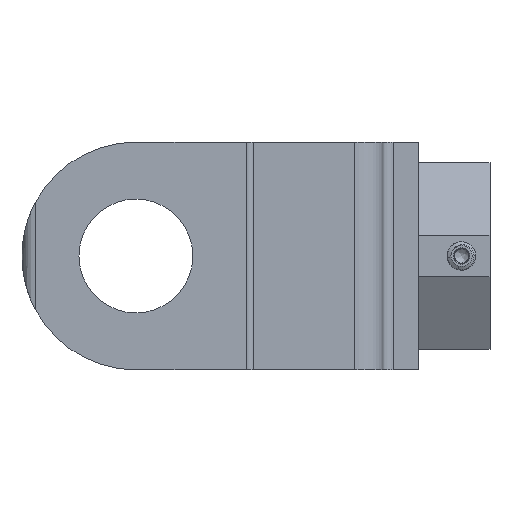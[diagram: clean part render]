
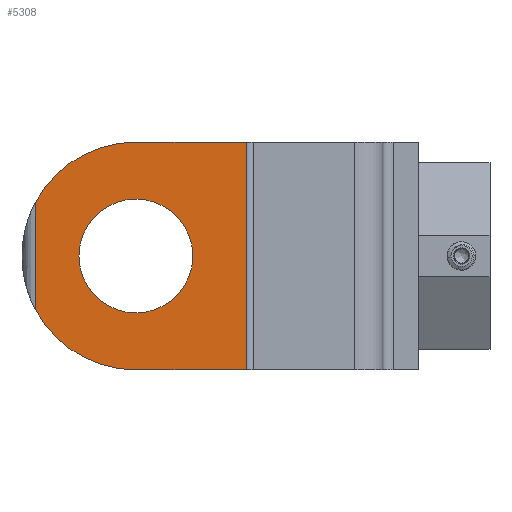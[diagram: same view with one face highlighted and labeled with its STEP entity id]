
A CAD part, left-side view. The second image highlights one B-rep face of the part: STEP entity #5308.
In plain terms, the highlighted planar face has unit normal (-1, 0, 0).
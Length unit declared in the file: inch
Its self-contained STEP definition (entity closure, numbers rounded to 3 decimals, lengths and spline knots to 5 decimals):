
#692 = CARTESIAN_POINT ( 'NONE',  ( 18.54413, 8.24726, 1. ) ) ;
#702 = DIRECTION ( 'NONE',  ( -1., 0., 0. ) ) ;
#703 = DIRECTION ( 'NONE',  ( 0., 0., 1. ) ) ;
#1264 = EDGE_LOOP ( 'NONE', ( #2578, #2579 ) ) ;
#1306 = EDGE_LOOP ( 'NONE', ( #2580, #2581, #2582, #2583, #2584, #2585 ) ) ;
#1454 = CARTESIAN_POINT ( 'NONE',  ( 18.54413, 7.27851, 2. ) ) ;
#1455 = DIRECTION ( 'NONE',  ( 0., 0., -1. ) ) ;
#1456 = CARTESIAN_POINT ( 'NONE',  ( 18.54413, 7.27851, 2. ) ) ;
#1460 = CARTESIAN_POINT ( 'NONE',  ( 18.54413, 7.27851, 0. ) ) ;
#1461 = DIRECTION ( 'NONE',  ( 0., -1., 0. ) ) ;
#1462 = CARTESIAN_POINT ( 'NONE',  ( 18.54413, 8.24726, 1. ) ) ;
#1463 = DIRECTION ( 'NONE',  ( 0., -1., 0. ) ) ;
#1464 = DIRECTION ( 'NONE',  ( -1., 0., 0. ) ) ;
#1465 = DIRECTION ( 'NONE',  ( 0., 0., 1. ) ) ;
#1466 = CARTESIAN_POINT ( 'NONE',  ( 18.54413, 8.24726, 1. ) ) ;
#1467 = DIRECTION ( 'NONE',  ( 1., 0., 0. ) ) ;
#1468 = DIRECTION ( 'NONE',  ( 0., 0., 1. ) ) ;
#1469 = CARTESIAN_POINT ( 'NONE',  ( 18.54413, 8.24726, 1. ) ) ;
#1471 = DIRECTION ( 'NONE',  ( 1., 0., 0. ) ) ;
#1472 = DIRECTION ( 'NONE',  ( 0., 0., 1. ) ) ;
#1473 = CARTESIAN_POINT ( 'NONE',  ( 18.54413, 9.12913, 2. ) ) ;
#1474 = DIRECTION ( 'NONE',  ( 0., 0., -1. ) ) ;
#1627 = CARTESIAN_POINT ( 'NONE',  ( 18.54413, 7.27851, 2. ) ) ;
#1628 = PLANE ( 'NONE',  #2238 ) ;
#1629 = DIRECTION ( 'NONE',  ( 1., 0., 0. ) ) ;
#1630 = DIRECTION ( 'NONE',  ( 0., 0., -1. ) ) ;
#1764 = FACE_BOUND ( 'NONE', #1264, .T. ) ;
#1767 = FACE_OUTER_BOUND ( 'NONE', #1306, .T. ) ;
#1854 = CIRCLE ( 'NONE', #2280, 0.5 ) ;
#2209 = AXIS2_PLACEMENT_3D ( 'NONE', #1462, #1464, #1465 ) ;
#2211 = AXIS2_PLACEMENT_3D ( 'NONE', #1469, #1471, #1472 ) ;
#2212 = AXIS2_PLACEMENT_3D ( 'NONE', #1466, #1467, #1468 ) ;
#2238 = AXIS2_PLACEMENT_3D ( 'NONE', #1627, #1629, #1630 ) ;
#2280 = AXIS2_PLACEMENT_3D ( 'NONE', #692, #702, #703 ) ;
#2578 = ORIENTED_EDGE ( 'NONE', *, *, #5049, .F. ) ;
#2579 = ORIENTED_EDGE ( 'NONE', *, *, #5726, .F. ) ;
#2580 = ORIENTED_EDGE ( 'NONE', *, *, #5048, .F. ) ;
#2581 = ORIENTED_EDGE ( 'NONE', *, *, #5051, .F. ) ;
#2582 = ORIENTED_EDGE ( 'NONE', *, *, #5052, .T. ) ;
#2583 = ORIENTED_EDGE ( 'NONE', *, *, #5050, .F. ) ;
#2584 = ORIENTED_EDGE ( 'NONE', *, *, #5047, .T. ) ;
#2585 = ORIENTED_EDGE ( 'NONE', *, *, #5044, .F. ) ;
#2691 = VERTEX_POINT ( 'NONE', #3726 ) ;
#2692 = VERTEX_POINT ( 'NONE', #3727 ) ;
#2738 = VERTEX_POINT ( 'NONE', #3773 ) ;
#2739 = VERTEX_POINT ( 'NONE', #3774 ) ;
#2740 = VERTEX_POINT ( 'NONE', #3775 ) ;
#2741 = VERTEX_POINT ( 'NONE', #3776 ) ;
#2766 = VERTEX_POINT ( 'NONE', #3801 ) ;
#2767 = VERTEX_POINT ( 'NONE', #3802 ) ;
#3096 = LINE ( 'NONE', #1454, #3103 ) ;
#3101 = VECTOR ( 'NONE', #1474, 39.37008 ) ;
#3102 = LINE ( 'NONE', #1456, #3111 ) ;
#3103 = VECTOR ( 'NONE', #1455, 39.37008 ) ;
#3106 = LINE ( 'NONE', #1473, #3101 ) ;
#3109 = LINE ( 'NONE', #1460, #3110 ) ;
#3110 = VECTOR ( 'NONE', #1461, 39.37008 ) ;
#3111 = VECTOR ( 'NONE', #1463, 39.37008 ) ;
#3114 = CIRCLE ( 'NONE', #2209, 0.5 ) ;
#3115 = CIRCLE ( 'NONE', #2212, 1. ) ;
#3117 = CIRCLE ( 'NONE', #2211, 1. ) ;
#3726 = CARTESIAN_POINT ( 'NONE',  ( 18.54413, 8.24726, 0.5 ) ) ;
#3727 = CARTESIAN_POINT ( 'NONE',  ( 18.54413, 8.24726, 1.5 ) ) ;
#3773 = CARTESIAN_POINT ( 'NONE',  ( 18.54413, 8.24726, 2. ) ) ;
#3774 = CARTESIAN_POINT ( 'NONE',  ( 18.54413, 7.27851, 2. ) ) ;
#3775 = CARTESIAN_POINT ( 'NONE',  ( 18.54413, 8.24726, 0. ) ) ;
#3776 = CARTESIAN_POINT ( 'NONE',  ( 18.54413, 7.27851, 0. ) ) ;
#3801 = CARTESIAN_POINT ( 'NONE',  ( 18.54413, 9.12913, 0.52852 ) ) ;
#3802 = CARTESIAN_POINT ( 'NONE',  ( 18.54413, 9.12913, 1.47148 ) ) ;
#5044 = EDGE_CURVE ( 'NONE', #2739, #2741, #3096, .T. ) ;
#5047 = EDGE_CURVE ( 'NONE', #2740, #2741, #3109, .T. ) ;
#5048 = EDGE_CURVE ( 'NONE', #2738, #2739, #3102, .T. ) ;
#5049 = EDGE_CURVE ( 'NONE', #2692, #2691, #3114, .T. ) ;
#5050 = EDGE_CURVE ( 'NONE', #2740, #2766, #3115, .T. ) ;
#5051 = EDGE_CURVE ( 'NONE', #2767, #2738, #3117, .T. ) ;
#5052 = EDGE_CURVE ( 'NONE', #2767, #2766, #3106, .T. ) ;
#5308 = ADVANCED_FACE ( 'NONE', ( #1764, #1767 ), #1628, .F. ) ;
#5726 = EDGE_CURVE ( 'NONE', #2691, #2692, #1854, .T. ) ;
